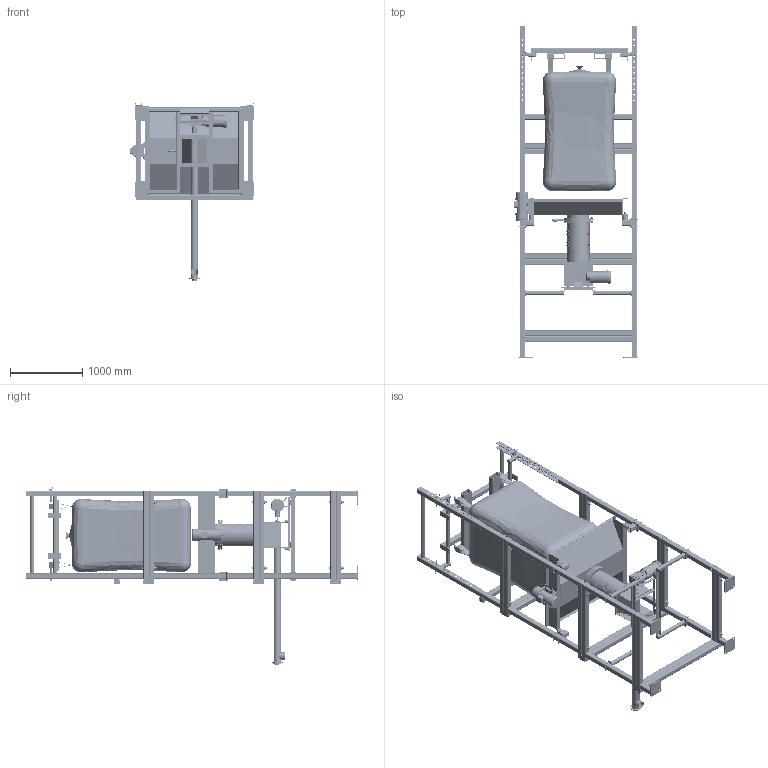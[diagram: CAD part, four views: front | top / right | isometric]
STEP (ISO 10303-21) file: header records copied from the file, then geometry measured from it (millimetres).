
FILE_DESCRIPTION(/* description */ ('Assembly > iProperties > Project > Description'),/* implementation_level */ '2;1');
FILE_NAME(/* name */ 'Z:\CUSTOMER ORDERS\V\Village Pie Maker\Inventor\005136- BagFlo FL FD to Scales.stp',/* time_stamp */ '2021-07-15T14:24:51-05:00',/* author */ ('rwest'),/* organization */ (''),/* preprocessor_version */ 'ST-DEVELOPER v17',/* originating_system */ 'Autodesk Inventor 2019',/* authorisation */ '');
FILE_SCHEMA (('AUTOMOTIVE_DESIGN { 1 0 10303 214 3 1 1 }'));
Products named in the file (136): 005136; 002458; 005026; AISC - 3x3x1/4 - 8.5; 002608; AISC - 3x3x1/4 - 54; 002815; AISC - 3x3x1_4 - 4.5; 5 x 5 x 0.5; J-5425-1; MVE.1530/4; 000009; Bag Pan Ring; AISC - 55.5x48 - 0.1345; Bag Pan 48 Channel; AISC - L 3 x 3 x 1/4 - 8.5; Bag Pan Collar; Bag Pan Ramp; UBB12IP-SN-FPAK; Iris Ring; Iris Handle; 000038; Access Door Chamber; Access Door; Hinge - Access Door; Hinge Pin; Hinge 3 Hoop; Hinge 2 Hoop; Latch; Base; Arm; Bolt; Latch Handle; Latch Lock; Latch Part 1; Latch Part 2; Latch_1; Nut; 000125; AISC - L 1.5 x 1.5 x 1/4 - 15.5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
Assembly tree (404 placements, depth 4):
  005136
    002458
      005026  x4
      AISC - 3x3x1_4 - 48 Connection  x2
      AISC - 3x3x1/4 - 8.5  x4
      AISC - 3x3x1/4 - 64
      AISC - 2-1/2 x 2-1/2 x 10 Gauge  x4
    002608
      AISC - 3x3x1_4 - 48 Connection  x4
      AISC - 3x3x1/4 - 64  x2
      AISC - 3x3x1/4 - 54  x4
      AISC - 2-1/2 x 2-1/2 x 10 Gauge  x8
    002815  x4
      AISC - 3x3x1_4 - 4.5
      5 x 5 x 0.5
    002616  x8
    J-5425-1  x4
    MVE.1530/4
    000009
      Bag Pan Ring
      AISC - 55.5x48 - 0.1345
      Bag Pan 48 Channel  x2
      AISC - L 3 x 3 x 1/4 - 8.5  x2
      Bag Pan Collar
      Bag Pan Ramp  x2
    UBB12IP-SN-FPAK
      Iris Ring
      Iris Handle
    000038
      Access Door Chamber
      Access Door
      Hinge - Access Door  x2
        Hinge Pin
        Hinge 3 Hoop
        Hinge 2 Hoop
      Latch  x2
        Base
        Arm
        Bolt
        Latch Handle
        Latch Lock
        Latch Part 1
        Latch Part 2
        Latch_1
        Nut
    000125
      AISC - L 1.5 x 1.5 x 1/4 - 15.5  x2
      AISC - L 1.5 x 1.5 x 1/4 - 15.5_1
      AISC - L 1.5 x 1.5 x 1/4 - 15.5_2
      AISC - L 1.5 x 1.5 x 1/4 - 29.25  x2
      AISC - 4x1/2 - 5
      AISC - L 3 x 3 x 1/4 - 3  x4
      AISC - 4x1/2 - 4
      AISC - 1x1 - 2.75  x2
    000903
      000048
      000048_1
      000048_2
      ANSI B18.3 - 3/8-16 UNC x 1  x4
    L100
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Bounding box: 1718.6 x 4597.4 x 2471.55 mm (x, y, z)
Volume: 1682835518.5 mm3; surface area: 51849703.1 mm2
Topology: 428 solids, 432 shells, 6325 faces, 15108 edges, 9692 vertices
Faces by surface type: plane 2962, cylinder 1988, cone 1071, torus 195, bspline 59, sphere 50
Full cylindrical faces by diameter (mm): 2.54 x1, 3.175 x6, 4.762 x10, 4.763 x4, 5.08 x12, 6 x1, 6.35 x10, 6.401 x16, 6.411 x4, 7.112 x6, 7.144 x2, 7.798 x24, 7.938 x32, 8.23 x4, 8.731 x8, 8.738 x24, 9.525 x78, 10.312 x24, 10.319 x14, 10.592 x9, 11.112 x12, 11.138 x2, 12.7 x95, 13.487 x4, 14.275 x2, 15.875 x8, 16.307 x8, 18 x4, 19.05 x26, 19.177 x4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
Entity records: 69157 total; most frequent: CARTESIAN_POINT 15878, DIRECTION 11140, ORIENTED_EDGE 9346, EDGE_CURVE 4677, AXIS2_PLACEMENT_3D 4459, VERTEX_POINT 3064, EDGE_LOOP 2331, LINE 2222
